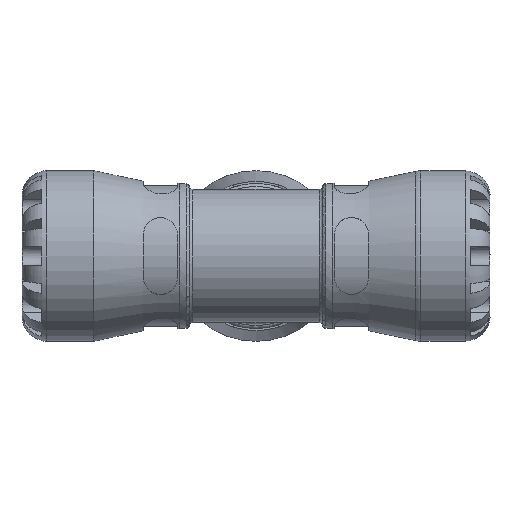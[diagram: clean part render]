
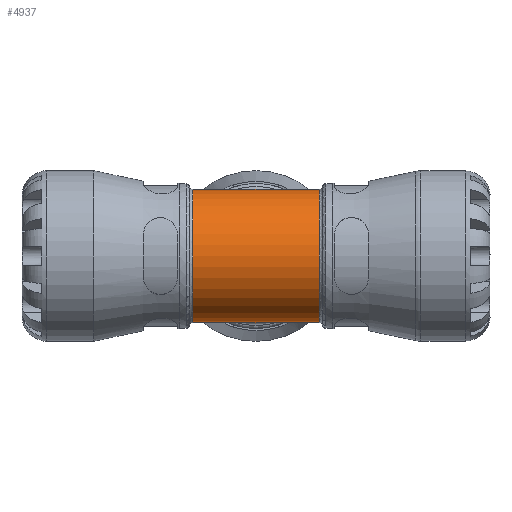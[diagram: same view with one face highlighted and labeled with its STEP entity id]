
A CAD part, front view. The second image highlights one B-rep face of the part: STEP entity #4937.
In plain terms, the highlighted cylindrical face has radius 27.3 mm (diameter 54.6 mm), a partial arc.
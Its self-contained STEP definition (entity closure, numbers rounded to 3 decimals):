
#932=CYLINDRICAL_SURFACE('',#5393,27.3);
#1419=FACE_OUTER_BOUND('',#1738,.T.);
#1738=EDGE_LOOP('',(#4159,#4160,#4161,#4162,#4163,#4164));
#1879=ELLIPSE('',#5060,39.106,27.3);
#1882=ELLIPSE('',#5065,39.106,27.3);
#1884=ELLIPSE('',#5069,39.106,27.3);
#1885=ELLIPSE('',#5071,39.106,27.3);
#1901=CIRCLE('',#5082,27.3);
#1983=CIRCLE('',#5264,27.3);
#2144=VERTEX_POINT('',#6993);
#2145=VERTEX_POINT('',#6995);
#2148=VERTEX_POINT('',#7103);
#2152=VERTEX_POINT('',#7285);
#2154=VERTEX_POINT('',#7288);
#2156=VERTEX_POINT('',#7322);
#2602=EDGE_CURVE('',#2144,#2145,#1879,.T.);
#2609=EDGE_CURVE('',#2145,#2148,#1882,.T.);
#2615=EDGE_CURVE('',#2154,#2152,#1884,.T.);
#2617=EDGE_CURVE('',#2156,#2154,#1885,.T.);
#2633=EDGE_CURVE('',#2152,#2144,#1901,.T.);
#2869=EDGE_CURVE('',#2148,#2156,#1983,.T.);
#4159=ORIENTED_EDGE('',*,*,#2602,.F.);
#4160=ORIENTED_EDGE('',*,*,#2633,.F.);
#4161=ORIENTED_EDGE('',*,*,#2615,.F.);
#4162=ORIENTED_EDGE('',*,*,#2617,.F.);
#4163=ORIENTED_EDGE('',*,*,#2869,.F.);
#4164=ORIENTED_EDGE('',*,*,#2609,.F.);
#4937=ADVANCED_FACE('',(#1419),#932,.T.);
#5060=AXIS2_PLACEMENT_3D('',#6996,#5615,#5616);
#5065=AXIS2_PLACEMENT_3D('',#7107,#5625,#5626);
#5069=AXIS2_PLACEMENT_3D('',#7290,#5633,#5634);
#5071=AXIS2_PLACEMENT_3D('',#7324,#5637,#5638);
#5082=AXIS2_PLACEMENT_3D('',#7701,#5659,#5660);
#5264=AXIS2_PLACEMENT_3D('',#9186,#6107,#6108);
#5393=AXIS2_PLACEMENT_3D('',#10173,#6429,#6430);
#5615=DIRECTION('center_axis',(-0.698,0.716,0.));
#5616=DIRECTION('ref_axis',(0.716,0.698,0.));
#5625=DIRECTION('center_axis',(0.698,0.716,0.));
#5626=DIRECTION('ref_axis',(-0.716,0.698,0.));
#5633=DIRECTION('center_axis',(-0.698,0.716,0.));
#5634=DIRECTION('ref_axis',(0.716,0.698,0.));
#5637=DIRECTION('center_axis',(0.698,0.716,0.));
#5638=DIRECTION('ref_axis',(-0.716,0.698,0.));
#5659=DIRECTION('center_axis',(1.,0.,0.));
#5660=DIRECTION('ref_axis',(0.,1.,0.));
#6107=DIRECTION('center_axis',(-1.,0.,0.));
#6108=DIRECTION('ref_axis',(0.,1.,0.));
#6429=DIRECTION('center_axis',(1.,0.,0.));
#6430=DIRECTION('ref_axis',(0.,1.,0.));
#6993=CARTESIAN_POINT('',(25.922,25.274,-10.321));
#6995=CARTESIAN_POINT('',(0.,0.,-27.3));
#6996=CARTESIAN_POINT('Origin',(0.,0.,0.));
#7103=CARTESIAN_POINT('',(-25.922,25.274,-10.321));
#7107=CARTESIAN_POINT('Origin',(0.,0.,0.));
#7285=CARTESIAN_POINT('',(25.922,25.274,10.321));
#7288=CARTESIAN_POINT('',(0.,0.,27.3));
#7290=CARTESIAN_POINT('Origin',(0.,0.,0.));
#7322=CARTESIAN_POINT('',(-25.922,25.274,10.321));
#7324=CARTESIAN_POINT('Origin',(0.,0.,0.));
#7701=CARTESIAN_POINT('Origin',(25.922,0.,0.));
#9186=CARTESIAN_POINT('Origin',(-25.922,0.,0.));
#10173=CARTESIAN_POINT('Origin',(13.65,0.,0.));
